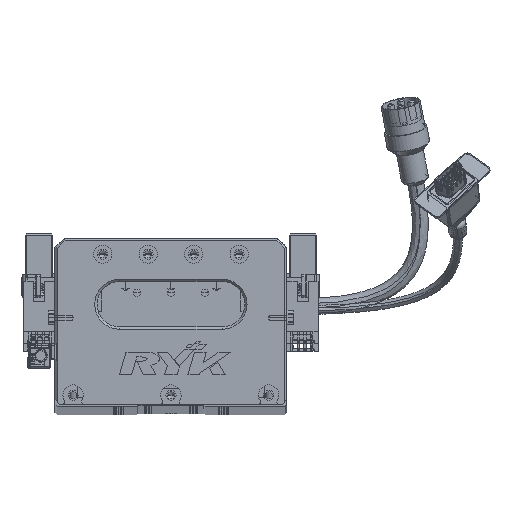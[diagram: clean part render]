
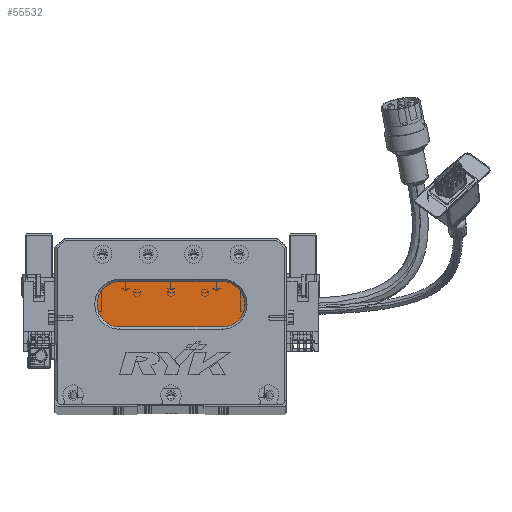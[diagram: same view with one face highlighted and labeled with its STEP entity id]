
A CAD part, top view. The second image highlights one B-rep face of the part: STEP entity #55532.
In plain terms, the highlighted planar face has unit normal (0, 0, 1) as drawn and (0, 0, -1) by its records, which use the part's own axes.
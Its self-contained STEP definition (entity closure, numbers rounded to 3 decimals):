
#3821 = CARTESIAN_POINT ( 'NONE',  ( 28.5, 34., 13. ) ) ;
#4653 = VERTEX_POINT ( 'NONE', #29464 ) ;
#6260 = ORIENTED_EDGE ( 'NONE', *, *, #27080, .T. ) ;
#9156 = CIRCLE ( 'NONE', #31462, 10. ) ;
#11970 = DIRECTION ( 'NONE',  ( 0., 0., -1. ) ) ;
#12150 = CARTESIAN_POINT ( 'NONE',  ( 28.5, 44., 13. ) ) ;
#14430 = CARTESIAN_POINT ( 'NONE',  ( 28.5, 54., 13. ) ) ;
#16359 = DIRECTION ( 'NONE',  ( 0., 0., -1. ) ) ;
#17570 = ORIENTED_EDGE ( 'NONE', *, *, #48656, .T. ) ;
#19650 = VECTOR ( 'NONE', #23015, 1000. ) ;
#23015 = DIRECTION ( 'NONE',  ( 1., 0., 0. ) ) ;
#27080 = EDGE_CURVE ( 'NONE', #44363, #4653, #66934, .T. ) ;
#29464 = CARTESIAN_POINT ( 'NONE',  ( 73.5, 34., 13. ) ) ;
#29940 = CARTESIAN_POINT ( 'NONE',  ( 18.5, 44., 13. ) ) ;
#30045 = CARTESIAN_POINT ( 'NONE',  ( 73.5, 44., 13. ) ) ;
#31370 = DIRECTION ( 'NONE',  ( -1., 0., 0. ) ) ;
#31462 = AXIS2_PLACEMENT_3D ( 'NONE', #12150, #54765, #38190 ) ;
#31910 = ORIENTED_EDGE ( 'NONE', *, *, #38769, .T. ) ;
#32956 = AXIS2_PLACEMENT_3D ( 'NONE', #50628, #38120, #75517 ) ;
#35046 = LINE ( 'NONE', #56080, #41708 ) ;
#37942 = DIRECTION ( 'NONE',  ( -1., 0., 0. ) ) ;
#38120 = DIRECTION ( 'NONE',  ( 0., 0., -1. ) ) ;
#38190 = DIRECTION ( 'NONE',  ( -1., 0., 0. ) ) ;
#38769 = EDGE_CURVE ( 'NONE', #50381, #46175, #70988, .T. ) ;
#40379 = PLANE ( 'NONE',  #54808 ) ;
#41589 = ORIENTED_EDGE ( 'NONE', *, *, #50402, .T. ) ;
#41708 = VECTOR ( 'NONE', #37942, 1000. ) ;
#42506 = ORIENTED_EDGE ( 'NONE', *, *, #47375, .T. ) ;
#42866 = FACE_OUTER_BOUND ( 'NONE', #79128, .T. ) ;
#44363 = VERTEX_POINT ( 'NONE', #53448 ) ;
#45430 = AXIS2_PLACEMENT_3D ( 'NONE', #30045, #11970, #31370 ) ;
#46175 = VERTEX_POINT ( 'NONE', #14430 ) ;
#47375 = EDGE_CURVE ( 'NONE', #46175, #44363, #54003, .T. ) ;
#48656 = EDGE_CURVE ( 'NONE', #49065, #50381, #9156, .T. ) ;
#49065 = VERTEX_POINT ( 'NONE', #3821 ) ;
#50381 = VERTEX_POINT ( 'NONE', #29940 ) ;
#50402 = EDGE_CURVE ( 'NONE', #4653, #49065, #35046, .T. ) ;
#50628 = CARTESIAN_POINT ( 'NONE',  ( 28.5, 44., 13. ) ) ;
#53403 = CARTESIAN_POINT ( 'NONE',  ( 73.5, 44., 13. ) ) ;
#53448 = CARTESIAN_POINT ( 'NONE',  ( 73.5, 54., 13. ) ) ;
#53650 = CARTESIAN_POINT ( 'NONE',  ( 73.5, 54., 13. ) ) ;
#54003 = LINE ( 'NONE', #53650, #19650 ) ;
#54765 = DIRECTION ( 'NONE',  ( 0., 0., -1. ) ) ;
#54808 = AXIS2_PLACEMENT_3D ( 'NONE', #53403, #16359, #59812 ) ;
#55532 = ADVANCED_FACE ( 'NONE', ( #42866 ), #40379, .T. ) ;
#56080 = CARTESIAN_POINT ( 'NONE',  ( 73.5, 34., 13. ) ) ;
#59812 = DIRECTION ( 'NONE',  ( -1., 0., 0. ) ) ;
#66934 = CIRCLE ( 'NONE', #45430, 10. ) ;
#70988 = CIRCLE ( 'NONE', #32956, 10. ) ;
#75517 = DIRECTION ( 'NONE',  ( -1., 0., 0. ) ) ;
#79128 = EDGE_LOOP ( 'NONE', ( #6260, #41589, #17570, #31910, #42506 ) ) ;
